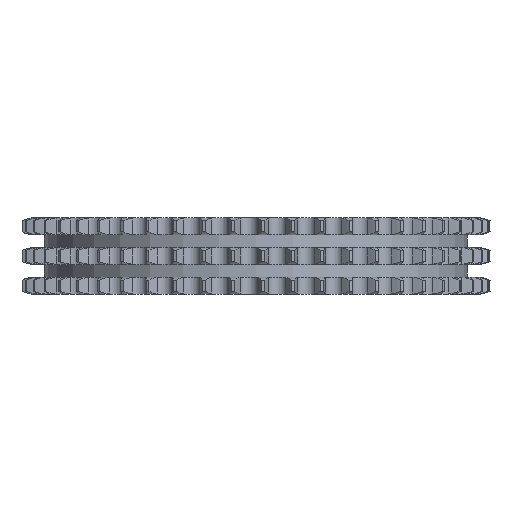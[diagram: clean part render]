
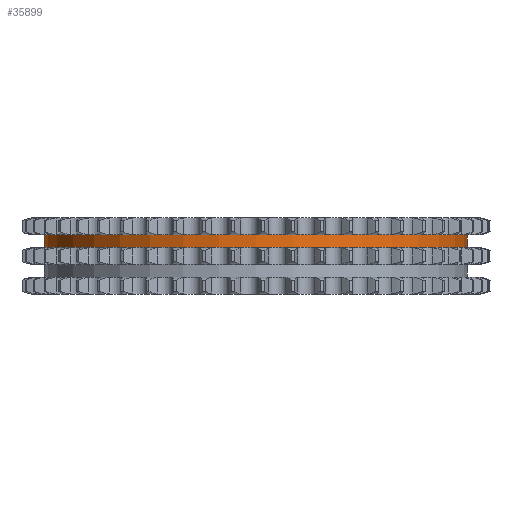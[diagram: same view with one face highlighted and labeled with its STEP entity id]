
A CAD part, left-side view. The second image highlights one B-rep face of the part: STEP entity #35899.
In plain terms, the highlighted cylindrical face has radius 137.665 mm (diameter 275.33 mm), a partial arc.
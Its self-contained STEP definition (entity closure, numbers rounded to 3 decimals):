
#7035=DIRECTION('',(0.,0.,-1.));
#7036=VECTOR('',#7035,8.25);
#7037=CARTESIAN_POINT('',(0.,137.665,13.8));
#7038=LINE('',#7037,#7036);
#7042=CARTESIAN_POINT('',(0.,0.,13.8));
#7043=DIRECTION('',(0.,0.,1.));
#7044=DIRECTION('',(0.,1.,0.));
#7045=AXIS2_PLACEMENT_3D('',#7042,#7043,#7044);
#7050=DIRECTION('',(0.,0.,-1.));
#7051=VECTOR('',#7050,8.25);
#7052=CARTESIAN_POINT('',(0.,-137.665,13.8));
#7053=LINE('',#7052,#7051);
#7057=CARTESIAN_POINT('',(0.,0.,5.55));
#7058=DIRECTION('',(0.,0.,1.));
#7059=DIRECTION('',(0.,1.,0.));
#7060=AXIS2_PLACEMENT_3D('',#7057,#7058,#7059);
#26946=CARTESIAN_POINT('',(0.,137.665,13.8));
#26947=CARTESIAN_POINT('',(0.,137.665,5.55));
#26948=VERTEX_POINT('',#26946);
#26949=VERTEX_POINT('',#26947);
#26950=CARTESIAN_POINT('',(0.,-137.665,13.8));
#26951=CARTESIAN_POINT('',(0.,-137.665,5.55));
#26952=VERTEX_POINT('',#26950);
#26953=VERTEX_POINT('',#26951);
#35887=CARTESIAN_POINT('',(0.,0.,15.18));
#35888=DIRECTION('',(0.,0.,-1.));
#35889=DIRECTION('',(0.,-1.,0.));
#35890=AXIS2_PLACEMENT_3D('',#35887,#35888,#35889);
#35891=CYLINDRICAL_SURFACE('',#35890,137.665);
#35892=ORIENTED_EDGE('',*,*,#35877,.F.);
#35893=ORIENTED_EDGE('',*,*,#35867,.T.);
#35894=ORIENTED_EDGE('',*,*,#35881,.T.);
#35896=ORIENTED_EDGE('',*,*,#35895,.F.);
#35897=EDGE_LOOP('',(#35892,#35893,#35894,#35896));
#35898=FACE_OUTER_BOUND('',#35897,.F.);
#35899=ADVANCED_FACE('',(#35898),#35891,.T.);
#7046=CIRCLE('',#7045,137.665);
#7061=CIRCLE('',#7060,137.665);
#35867=EDGE_CURVE('',#26948,#26952,#7046,.T.);
#35877=EDGE_CURVE('',#26948,#26949,#7038,.T.);
#35881=EDGE_CURVE('',#26952,#26953,#7053,.T.);
#35895=EDGE_CURVE('',#26949,#26953,#7061,.T.);
